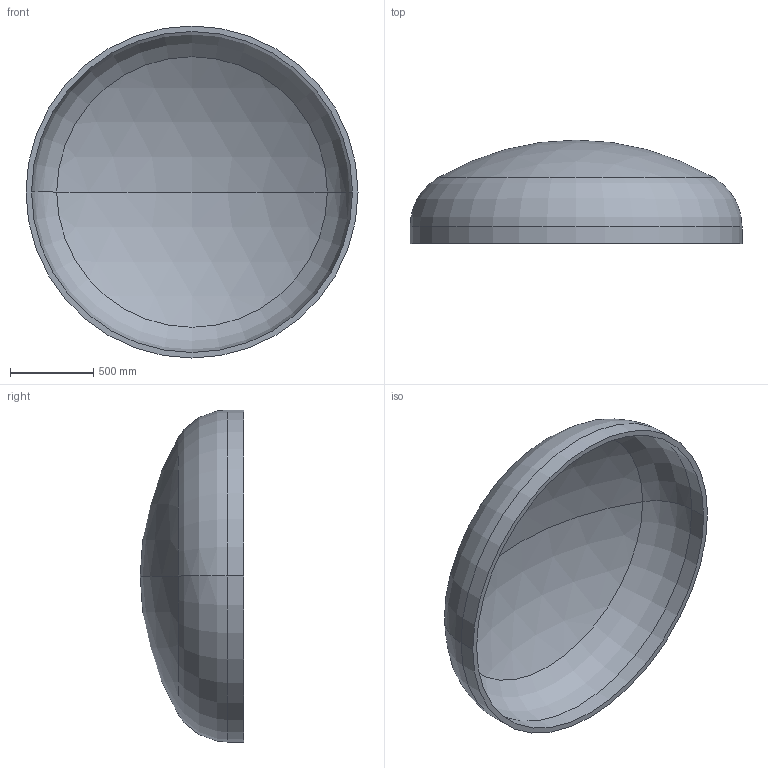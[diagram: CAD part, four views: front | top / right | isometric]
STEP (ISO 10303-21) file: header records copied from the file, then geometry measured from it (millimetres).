
FILE_DESCRIPTION (( 'STEP AP203' ), '1' );
FILE_NAME ('DIN 28013 Korbbogenform_-_Boden DIN 28013 - 2000 x 100 - I - s=33.step', '2016-07-01T13:47:51', ( '' ), ( '' ), 'SwSTEP 2.0', 'SolidWorks 2013', '' );
FILE_SCHEMA (( 'CONFIG_CONTROL_DESIGN' ));
Length unit declared in the file: millimetre
Products named in the file (1): DIN 28013 Korbbogenform_-_Boden DIN 28013 - 2000 x 100 - I - s=33
Bounding box: 2000 x 622.84 x 2000 mm (x, y, z)
Volume: 161065472.6 mm3; surface area: 9967745.3 mm2
Topology: 1 solids, 1 shells, 13 faces, 24 edges, 14 vertices
Faces by surface type: torus 4, cylinder 4, sphere 4, plane 1
Entity records: 407 total; most frequent: DIRECTION 72, CARTESIAN_POINT 52, ORIENTED_EDGE 48, AXIS2_PLACEMENT_3D 34, EDGE_CURVE 24, CIRCLE 20, EDGE_LOOP 14, VERTEX_POINT 14
